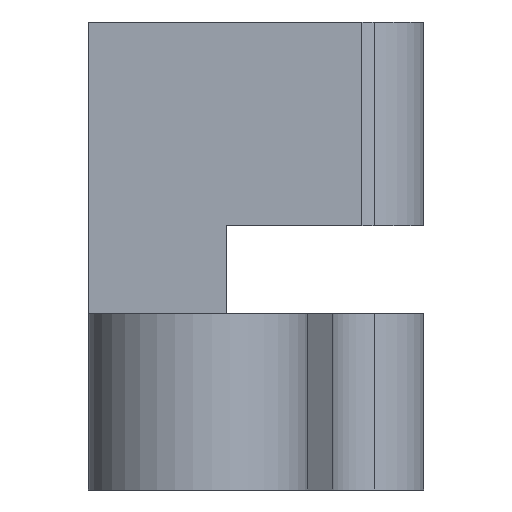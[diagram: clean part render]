
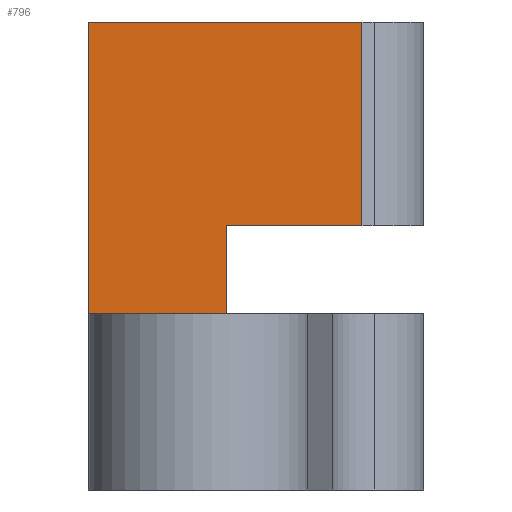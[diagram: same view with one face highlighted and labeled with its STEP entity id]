
A CAD part, left-side view. The second image highlights one B-rep face of the part: STEP entity #796.
In plain terms, the highlighted planar face has unit normal (-1, 0, 0).
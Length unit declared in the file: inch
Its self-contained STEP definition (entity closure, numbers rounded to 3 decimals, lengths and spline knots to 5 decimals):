
#45 = ORIENTED_EDGE ( 'NONE', *, *, #345, .T. ) ;
#48 = CARTESIAN_POINT ( 'NONE',  ( -0.075, -0.075, 0.585 ) ) ;
#53 = CARTESIAN_POINT ( 'NONE',  ( -0.075, -0.075, 0.585 ) ) ;
#54 = LINE ( 'NONE', #48, #725 ) ;
#103 = LINE ( 'NONE', #616, #455 ) ;
#104 = ORIENTED_EDGE ( 'NONE', *, *, #774, .F. ) ;
#115 = DIRECTION ( 'NONE',  ( 0., 0., -1. ) ) ;
#119 = CARTESIAN_POINT ( 'NONE',  ( -0.075, 0.1045, 0.665 ) ) ;
#122 = EDGE_LOOP ( 'NONE', ( #717, #441, #45, #104, #191, #783 ) ) ;
#129 = LINE ( 'NONE', #361, #816 ) ;
#134 = VECTOR ( 'NONE', #748, 39.37008 ) ;
#139 = DIRECTION ( 'NONE',  ( 0., -1., 0. ) ) ;
#191 = ORIENTED_EDGE ( 'NONE', *, *, #453, .F. ) ;
#231 = CARTESIAN_POINT ( 'NONE',  ( -0.075, -0.01869, 0.425 ) ) ;
#234 = LINE ( 'NONE', #607, #762 ) ;
#235 = CARTESIAN_POINT ( 'NONE',  ( -0.075, -0.01869, 0.665 ) ) ;
#345 = EDGE_CURVE ( 'NONE', #482, #598, #489, .T. ) ;
#361 = CARTESIAN_POINT ( 'NONE',  ( -0.075, -0.075, 0.85 ) ) ;
#363 = DIRECTION ( 'NONE',  ( 0., 1., 0. ) ) ;
#378 = PLANE ( 'NONE',  #708 ) ;
#395 = FACE_OUTER_BOUND ( 'NONE', #122, .T. ) ;
#422 = CARTESIAN_POINT ( 'NONE',  ( -0.075, 0.1045, 0.585 ) ) ;
#431 = CARTESIAN_POINT ( 'NONE',  ( -0.075, 0.23, 0.585 ) ) ;
#441 = ORIENTED_EDGE ( 'NONE', *, *, #583, .T. ) ;
#453 = EDGE_CURVE ( 'NONE', #663, #675, #103, .T. ) ;
#455 = VECTOR ( 'NONE', #539, 39.37008 ) ;
#482 = VERTEX_POINT ( 'NONE', #677 ) ;
#489 = LINE ( 'NONE', #819, #134 ) ;
#493 = EDGE_CURVE ( 'NONE', #663, #703, #234, .T. ) ;
#515 = DIRECTION ( 'NONE',  ( -1., 0., 0. ) ) ;
#518 = DIRECTION ( 'NONE',  ( 0., 0., -1. ) ) ;
#539 = DIRECTION ( 'NONE',  ( 0., 0., -1. ) ) ;
#580 = VECTOR ( 'NONE', #518, 39.37008 ) ;
#583 = EDGE_CURVE ( 'NONE', #790, #482, #129, .T. ) ;
#598 = VERTEX_POINT ( 'NONE', #431 ) ;
#607 = CARTESIAN_POINT ( 'NONE',  ( -0.075, -0.075, 0.665 ) ) ;
#616 = CARTESIAN_POINT ( 'NONE',  ( -0.075, 0.1045, 0.425 ) ) ;
#626 = LINE ( 'NONE', #231, #580 ) ;
#646 = DIRECTION ( 'NONE',  ( 0., 1., 0. ) ) ;
#648 = EDGE_CURVE ( 'NONE', #790, #703, #626, .T. ) ;
#663 = VERTEX_POINT ( 'NONE', #119 ) ;
#675 = VERTEX_POINT ( 'NONE', #422 ) ;
#677 = CARTESIAN_POINT ( 'NONE',  ( -0.075, 0.23, 0.85 ) ) ;
#703 = VERTEX_POINT ( 'NONE', #235 ) ;
#708 = AXIS2_PLACEMENT_3D ( 'NONE', #53, #515, #115 ) ;
#717 = ORIENTED_EDGE ( 'NONE', *, *, #648, .F. ) ;
#725 = VECTOR ( 'NONE', #646, 39.37008 ) ;
#748 = DIRECTION ( 'NONE',  ( 0., 0., -1. ) ) ;
#762 = VECTOR ( 'NONE', #139, 39.37008 ) ;
#771 = CARTESIAN_POINT ( 'NONE',  ( -0.075, -0.01869, 0.85 ) ) ;
#774 = EDGE_CURVE ( 'NONE', #675, #598, #54, .T. ) ;
#783 = ORIENTED_EDGE ( 'NONE', *, *, #493, .T. ) ;
#790 = VERTEX_POINT ( 'NONE', #771 ) ;
#796 = ADVANCED_FACE ( 'NONE', ( #395 ), #378, .T. ) ;
#816 = VECTOR ( 'NONE', #363, 39.37008 ) ;
#819 = CARTESIAN_POINT ( 'NONE',  ( -0.075, 0.23, 0.585 ) ) ;
